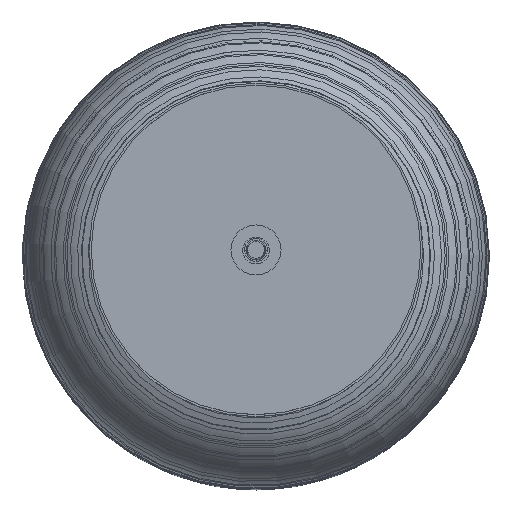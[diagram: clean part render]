
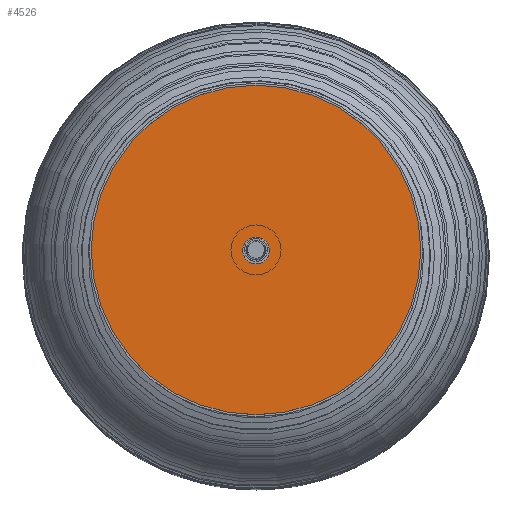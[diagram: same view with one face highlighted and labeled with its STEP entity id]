
A CAD part, top view. The second image highlights one B-rep face of the part: STEP entity #4526.
In plain terms, the highlighted planar face has unit normal (0, 0, 1).
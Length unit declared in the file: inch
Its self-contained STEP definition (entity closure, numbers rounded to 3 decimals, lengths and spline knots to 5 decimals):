
#32=FACE_BOUND('',#1382,.T.);
#455=PLANE('',#5043);
#1098=FACE_OUTER_BOUND('',#1381,.T.);
#1381=EDGE_LOOP('',(#3751));
#1382=EDGE_LOOP('',(#3752));
#1728=CIRCLE('',#5038,0.2);
#1730=CIRCLE('',#5041,2.47);
#2034=VERTEX_POINT('',#10104);
#2036=VERTEX_POINT('',#10110);
#2637=EDGE_CURVE('',#2034,#2034,#1728,.T.);
#2640=EDGE_CURVE('',#2036,#2036,#1730,.F.);
#3751=ORIENTED_EDGE('',*,*,#2640,.T.);
#3752=ORIENTED_EDGE('',*,*,#2637,.T.);
#4526=ADVANCED_FACE('',(#1098,#32),#455,.T.);
#5038=AXIS2_PLACEMENT_3D('',#10105,#6072,#6073);
#5041=AXIS2_PLACEMENT_3D('',#10111,#6079,#6080);
#5043=AXIS2_PLACEMENT_3D('',#10115,#6084,#6085);
#6072=DIRECTION('center_axis',(0.,0.,-1.));
#6073=DIRECTION('ref_axis',(1.,0.,0.));
#6079=DIRECTION('center_axis',(0.,0.,-1.));
#6080=DIRECTION('ref_axis',(1.,0.,0.));
#6084=DIRECTION('center_axis',(0.,0.,1.));
#6085=DIRECTION('ref_axis',(1.,0.,0.));
#10104=CARTESIAN_POINT('',(-0.19813,-0.00889,47.73));
#10105=CARTESIAN_POINT('Origin',(0.00187,-0.00889,
47.73));
#10110=CARTESIAN_POINT('',(-2.47,0.,47.73));
#10111=CARTESIAN_POINT('Origin',(0.,0.,47.73));
#10115=CARTESIAN_POINT('Origin',(0.,0.,47.73));
